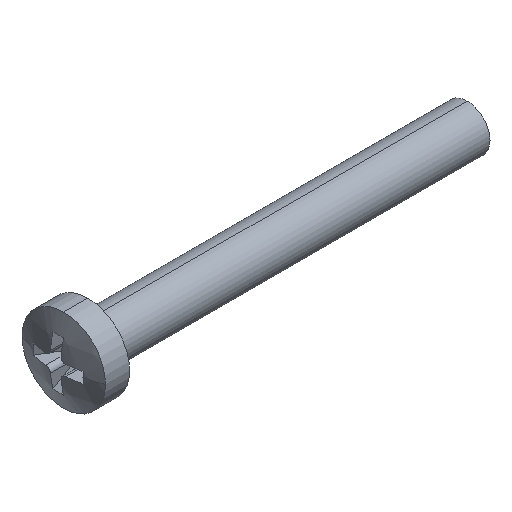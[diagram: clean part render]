
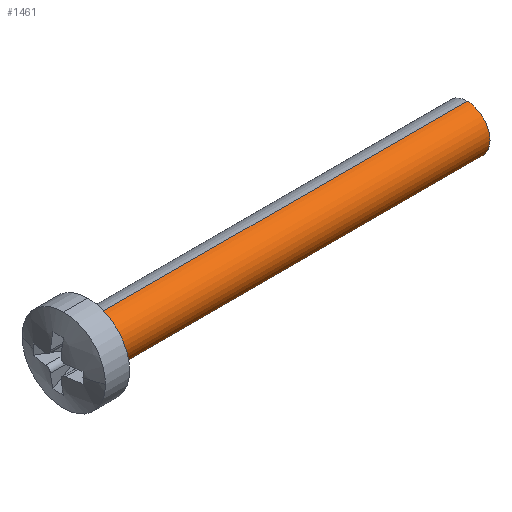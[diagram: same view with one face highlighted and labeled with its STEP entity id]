
A CAD part, isometric view. The second image highlights one B-rep face of the part: STEP entity #1461.
In plain terms, the highlighted cylindrical face has radius 1.5 mm (diameter 3 mm), a partial arc.
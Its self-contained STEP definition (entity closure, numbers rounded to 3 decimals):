
#124 = PLANE('',#125);
#125 = AXIS2_PLACEMENT_3D('',#126,#127,#128);
#126 = CARTESIAN_POINT('',(2.15,1.8,0.));
#127 = DIRECTION('',(1.,0.,-0.));
#128 = DIRECTION('',(-0.,0.,-1.));
#212 = VERTEX_POINT('',#213);
#213 = CARTESIAN_POINT('',(2.15,0.,-1.5));
#214 = VERTEX_POINT('',#215);
#215 = CARTESIAN_POINT('',(2.15,0.,1.5));
#223 = CYLINDRICAL_SURFACE('',#224,1.5);
#224 = AXIS2_PLACEMENT_3D('',#225,#226,#227);
#225 = CARTESIAN_POINT('',(4.516,0.,0.));
#226 = DIRECTION('',(1.,-0.,-0.));
#227 = DIRECTION('',(0.,0.,-1.));
#242 = EDGE_CURVE('',#214,#243,#245,.T.);
#243 = VERTEX_POINT('',#244);
#244 = CARTESIAN_POINT('',(27.15,0.,1.5));
#245 = SURFACE_CURVE('',#246,(#250,#257),.PCURVE_S1.);
#246 = LINE('',#247,#248);
#247 = CARTESIAN_POINT('',(4.516,0.,1.5));
#248 = VECTOR('',#249,1.);
#249 = DIRECTION('',(1.,-0.,-0.));
#250 = PCURVE('',#223,#251);
#251 = DEFINITIONAL_REPRESENTATION('',(#252),#256);
#252 = LINE('',#253,#254);
#253 = CARTESIAN_POINT('',(3.142,0.));
#254 = VECTOR('',#255,1.);
#255 = DIRECTION('',(0.,1.));
#256 = ( GEOMETRIC_REPRESENTATION_CONTEXT(2) 
PARAMETRIC_REPRESENTATION_CONTEXT() REPRESENTATION_CONTEXT('2D SPACE',''
  ) );
#257 = PCURVE('',#258,#263);
#258 = CYLINDRICAL_SURFACE('',#259,1.5);
#259 = AXIS2_PLACEMENT_3D('',#260,#261,#262);
#260 = CARTESIAN_POINT('',(4.516,0.,0.));
#261 = DIRECTION('',(1.,-0.,-0.));
#262 = DIRECTION('',(0.,0.,-1.));
#263 = DEFINITIONAL_REPRESENTATION('',(#264),#268);
#264 = LINE('',#265,#266);
#265 = CARTESIAN_POINT('',(3.142,0.));
#266 = VECTOR('',#267,1.);
#267 = DIRECTION('',(0.,1.));
#268 = ( GEOMETRIC_REPRESENTATION_CONTEXT(2) 
PARAMETRIC_REPRESENTATION_CONTEXT() REPRESENTATION_CONTEXT('2D SPACE',''
  ) );
#271 = VERTEX_POINT('',#272);
#272 = CARTESIAN_POINT('',(27.15,0.,-1.5));
#287 = PLANE('',#288);
#288 = AXIS2_PLACEMENT_3D('',#289,#290,#291);
#289 = CARTESIAN_POINT('',(27.15,1.5,0.));
#290 = DIRECTION('',(1.,0.,-0.));
#291 = DIRECTION('',(-0.,0.,-1.));
#299 = EDGE_CURVE('',#212,#271,#300,.T.);
#300 = SURFACE_CURVE('',#301,(#305,#312),.PCURVE_S1.);
#301 = LINE('',#302,#303);
#302 = CARTESIAN_POINT('',(4.516,0.,-1.5));
#303 = VECTOR('',#304,1.);
#304 = DIRECTION('',(1.,-0.,-0.));
#305 = PCURVE('',#223,#306);
#306 = DEFINITIONAL_REPRESENTATION('',(#307),#311);
#307 = LINE('',#308,#309);
#308 = CARTESIAN_POINT('',(0.,0.));
#309 = VECTOR('',#310,1.);
#310 = DIRECTION('',(0.,1.));
#311 = ( GEOMETRIC_REPRESENTATION_CONTEXT(2) 
PARAMETRIC_REPRESENTATION_CONTEXT() REPRESENTATION_CONTEXT('2D SPACE',''
  ) );
#312 = PCURVE('',#258,#313);
#313 = DEFINITIONAL_REPRESENTATION('',(#314),#318);
#314 = LINE('',#315,#316);
#315 = CARTESIAN_POINT('',(6.283,0.));
#316 = VECTOR('',#317,1.);
#317 = DIRECTION('',(0.,1.));
#318 = ( GEOMETRIC_REPRESENTATION_CONTEXT(2) 
PARAMETRIC_REPRESENTATION_CONTEXT() REPRESENTATION_CONTEXT('2D SPACE',''
  ) );
#1440 = EDGE_CURVE('',#243,#271,#1441,.T.);
#1441 = SURFACE_CURVE('',#1442,(#1447,#1454),.PCURVE_S1.);
#1442 = CIRCLE('',#1443,1.5);
#1443 = AXIS2_PLACEMENT_3D('',#1444,#1445,#1446);
#1444 = CARTESIAN_POINT('',(27.15,0.,0.));
#1445 = DIRECTION('',(1.,-0.,0.));
#1446 = DIRECTION('',(0.,0.,-1.));
#1447 = PCURVE('',#287,#1448);
#1448 = DEFINITIONAL_REPRESENTATION('',(#1449),#1453);
#1449 = CIRCLE('',#1450,1.5);
#1450 = AXIS2_PLACEMENT_2D('',#1451,#1452);
#1451 = CARTESIAN_POINT('',(0.,-1.5));
#1452 = DIRECTION('',(1.,0.));
#1453 = ( GEOMETRIC_REPRESENTATION_CONTEXT(2) 
PARAMETRIC_REPRESENTATION_CONTEXT() REPRESENTATION_CONTEXT('2D SPACE',''
  ) );
#1454 = PCURVE('',#258,#1455);
#1455 = DEFINITIONAL_REPRESENTATION('',(#1456),#1460);
#1456 = LINE('',#1457,#1458);
#1457 = CARTESIAN_POINT('',(0.,22.634));
#1458 = VECTOR('',#1459,1.);
#1459 = DIRECTION('',(1.,0.));
#1460 = ( GEOMETRIC_REPRESENTATION_CONTEXT(2) 
PARAMETRIC_REPRESENTATION_CONTEXT() REPRESENTATION_CONTEXT('2D SPACE',''
  ) );
#1461 = ADVANCED_FACE('',(#1462),#258,.T.);
#1462 = FACE_BOUND('',#1463,.T.);
#1463 = EDGE_LOOP('',(#1464,#1465,#1487,#1488));
#1464 = ORIENTED_EDGE('',*,*,#242,.F.);
#1465 = ORIENTED_EDGE('',*,*,#1466,.T.);
#1466 = EDGE_CURVE('',#214,#212,#1467,.T.);
#1467 = SURFACE_CURVE('',#1468,(#1473,#1480),.PCURVE_S1.);
#1468 = CIRCLE('',#1469,1.5);
#1469 = AXIS2_PLACEMENT_3D('',#1470,#1471,#1472);
#1470 = CARTESIAN_POINT('',(2.15,0.,0.));
#1471 = DIRECTION('',(1.,-0.,0.));
#1472 = DIRECTION('',(0.,0.,-1.));
#1473 = PCURVE('',#258,#1474);
#1474 = DEFINITIONAL_REPRESENTATION('',(#1475),#1479);
#1475 = LINE('',#1476,#1477);
#1476 = CARTESIAN_POINT('',(0.,-2.366));
#1477 = VECTOR('',#1478,1.);
#1478 = DIRECTION('',(1.,0.));
#1479 = ( GEOMETRIC_REPRESENTATION_CONTEXT(2) 
PARAMETRIC_REPRESENTATION_CONTEXT() REPRESENTATION_CONTEXT('2D SPACE',''
  ) );
#1480 = PCURVE('',#124,#1481);
#1481 = DEFINITIONAL_REPRESENTATION('',(#1482),#1486);
#1482 = CIRCLE('',#1483,1.5);
#1483 = AXIS2_PLACEMENT_2D('',#1484,#1485);
#1484 = CARTESIAN_POINT('',(0.,-1.8));
#1485 = DIRECTION('',(1.,0.));
#1486 = ( GEOMETRIC_REPRESENTATION_CONTEXT(2) 
PARAMETRIC_REPRESENTATION_CONTEXT() REPRESENTATION_CONTEXT('2D SPACE',''
  ) );
#1487 = ORIENTED_EDGE('',*,*,#299,.T.);
#1488 = ORIENTED_EDGE('',*,*,#1440,.F.);
